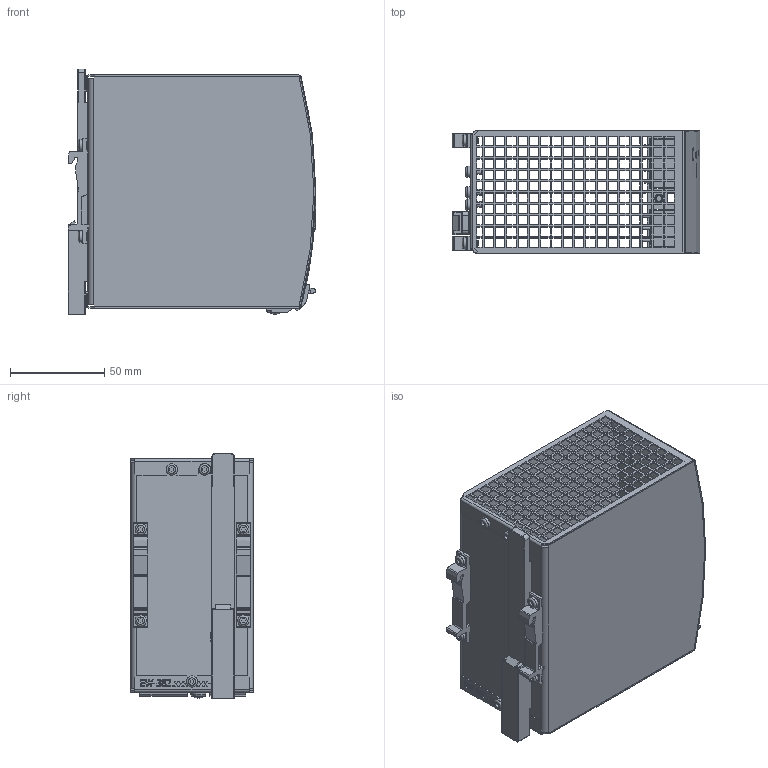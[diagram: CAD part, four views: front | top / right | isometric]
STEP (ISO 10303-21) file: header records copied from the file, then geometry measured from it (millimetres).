
FILE_DESCRIPTION(/* description */ ('HOUSING BODY','CAx-IF Rec.Pracs.---Representation and Presentation of Product Manufacturing Information (PMI)---3.8---2014-02-18'),/* implementation_level */ '2;1');
FILE_NAME(/* name */ 'L:\MKT-GER\Daten von KO\CPS20.241-60 (382.76)\md3_cps20_241-60.stp',/* time_stamp */ '2016-03-31T07:10:50+02:00',/* author */ ('rahns'),/* organization */ (''),/* preprocessor_version */ 'ST-DEVELOPER v16.1',/* originating_system */ 'Autodesk Inventor 2016',/* authorisation */ '');
FILE_SCHEMA (('AP242_MANAGED_MODEL_BASED_3D_ENGINEERING_MIM_LF { 1 0 10303 442 1 1 4 }'));
Products named in the file (12): HOUSING BODY 382.00; HOUSING COVER 382.76; T HOLDER; SLIDER; XT-LP2SW-R3; SCREW 3x6; SCREW 4x8; TERMINAL 4P R6,35; TERMINAL 3P R6,35; FRONTFOIL 382.76; LED GN; 382.76
Assembly tree (18 placements, depth 2):
  382.76
    HOUSING BODY 382.00
    HOUSING COVER 382.76
    T HOLDER  x2
    SLIDER
    XT-LP2SW-R3
    SCREW 3x6  x7
    SCREW 4x8
    TERMINAL 4P R6,35
    TERMINAL 3P R6,35
    FRONTFOIL 382.76
    LED GN
Bounding box: 131.65 x 65 x 130.5 mm (x, y, z)
Volume: 95843.9 mm3; surface area: 140483.7 mm2
Topology: 18 solids, 18 shells, 2996 faces, 8525 edges, 5687 vertices
Faces by surface type: plane 2412, bspline 283, cylinder 256, cone 19, torus 17, sphere 9
Full cylindrical faces by diameter (mm): 1.25 x7, 2.45 x6, 2.5 x1, 2.75 x1, 3 x7, 3.1 x4, 3.2 x1, 3.5 x1, 3.621 x1, 4 x1, 4.5 x2, 4.6 x1, 5 x7, 6 x7
Entity records: 99233 total; most frequent: CARTESIAN_POINT 24111, ORIENTED_EDGE 16222, DIRECTION 13431, EDGE_CURVE 8111, LINE 6765, VECTOR 6765, VERTEX_POINT 5430, EDGE_LOOP 3721
